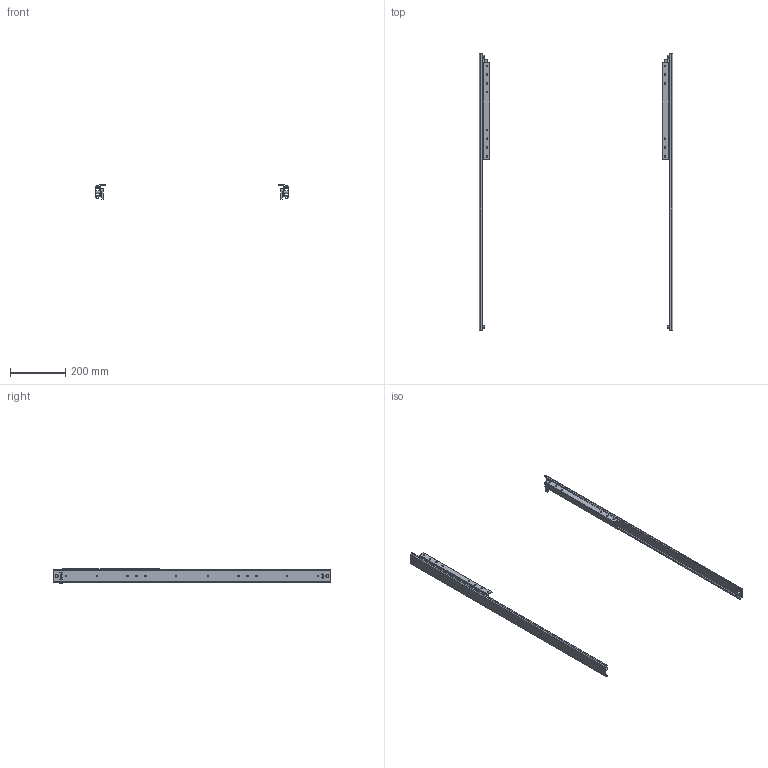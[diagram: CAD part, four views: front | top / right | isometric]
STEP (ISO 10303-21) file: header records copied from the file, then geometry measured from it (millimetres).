
FILE_DESCRIPTION( ( '' ), '1' );
FILE_NAME( 'D:/HETTCAD 2014/DATA TRANSFER/AUTOCAD EXPORT/SENT/Sheet m_6/sent/9131984/9133040.stp', '2014-06-20T06:17:58', ( '' ), ( '' ), ' ', ' ', ' ' );
FILE_SCHEMA( ( 'CONFIG_CONTROL_DESIGN' ) );
Length unit declared in the file: millimetre
Products named in the file (2): 1; 2
Bounding box: 700 x 1000 x 50.88 mm (x, y, z)
Volume: 414846.5 mm3; surface area: 381126.7 mm2
Topology: 2 solids, 2 shells, 208 faces, 592 edges, 392 vertices
Faces by surface type: cylinder 110, plane 98
Entity records: 7112 total; most frequent: DIRECTION 1232, CARTESIAN_POINT 1194, ORIENTED_EDGE 1184, EDGE_CURVE 592, AXIS2_PLACEMENT_3D 430, VERTEX_POINT 392, LINE 372, VECTOR 372
